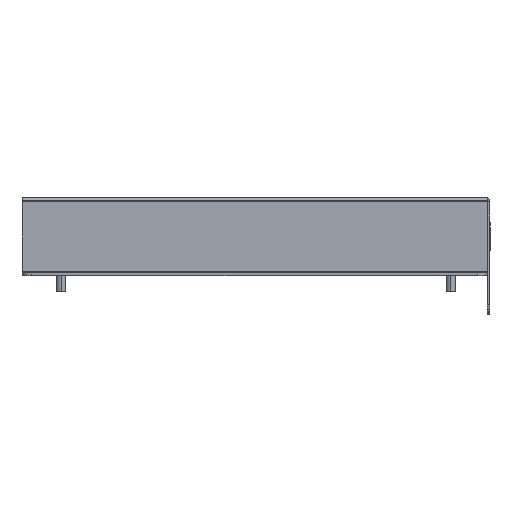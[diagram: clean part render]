
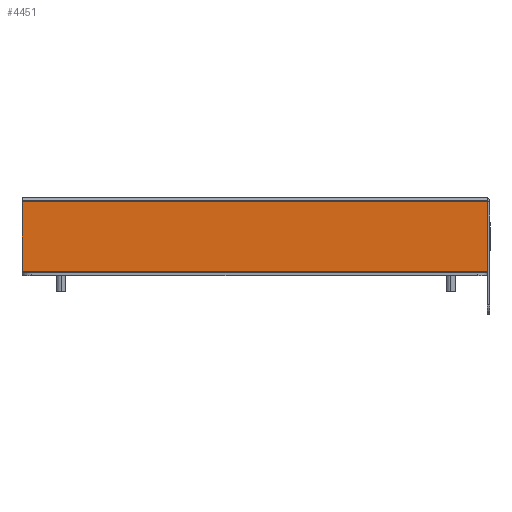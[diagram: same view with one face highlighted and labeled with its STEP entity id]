
A CAD part, left-side view. The second image highlights one B-rep face of the part: STEP entity #4451.
In plain terms, the highlighted planar face has unit normal (-1, 0, 0).
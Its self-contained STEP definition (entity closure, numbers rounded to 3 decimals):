
#3866=CARTESIAN_POINT(' ',(-424.,-119.25,-37.75));
#3871=DIRECTION(' ',(0.,1.,0.));
#3876=VECTOR(' ',#3871,1.);
#3881=LINE('',#3866,#3876);
#3886=CARTESIAN_POINT(' ',(-424.,-119.25,-37.75));
#3887=VERTEX_POINT(' ',#3886);
#3891=CARTESIAN_POINT(' ',(-424.,119.25,-37.75));
#3892=VERTEX_POINT(' ',#3891);
#3896=EDGE_CURVE(' ',#3887,#3892,#3881,.T.);
#4311=DIRECTION(' ',(-1.,0.,0.));
#4316=CARTESIAN_POINT(' ',(-424.,119.25,-37.75));
#4321=DIRECTION(' ',(0.,-1.,0.));
#4326=AXIS2_PLACEMENT_3D(' ',#4316,#4311,#4321);
#4331=PLANE('NONE',#4326);
#4336=ORIENTED_EDGE(' ',*,*,#3896,.F.);
#4341=CARTESIAN_POINT(' ',(-424.,-119.25,-2.25));
#4346=DIRECTION(' ',(0.,0.,-1.));
#4351=VECTOR(' ',#4346,1.);
#4356=LINE('',#4341,#4351);
#4361=CARTESIAN_POINT(' ',(-424.,-119.25,-2.25));
#4362=VERTEX_POINT(' ',#4361);
#4366=EDGE_CURVE(' ',#4362,#3887,#4356,.T.);
#4371=ORIENTED_EDGE(' ',*,*,#4366,.F.);
#4376=CARTESIAN_POINT(' ',(-424.,119.25,-2.25));
#4381=DIRECTION(' ',(0.,-1.,0.));
#4386=VECTOR(' ',#4381,1.);
#4391=LINE('',#4376,#4386);
#4396=CARTESIAN_POINT(' ',(-424.,119.25,-2.25));
#4397=VERTEX_POINT(' ',#4396);
#4401=EDGE_CURVE(' ',#4397,#4362,#4391,.T.);
#4406=ORIENTED_EDGE(' ',*,*,#4401,.F.);
#4411=CARTESIAN_POINT(' ',(-424.,119.25,-37.75));
#4416=DIRECTION(' ',(0.,0.,1.));
#4421=VECTOR(' ',#4416,1.);
#4426=LINE('',#4411,#4421);
#4431=EDGE_CURVE(' ',#3892,#4397,#4426,.T.);
#4436=ORIENTED_EDGE(' ',*,*,#4431,.F.);
#4441=EDGE_LOOP(' ',(#4336,#4371,#4406,#4436));
#4446=FACE_OUTER_BOUND(' ',#4441,.T.);
#4451=ADVANCED_FACE('NONE',(#4446),#4331,.T.);
